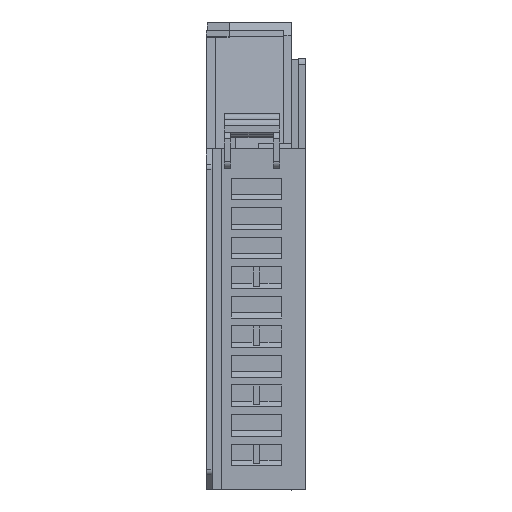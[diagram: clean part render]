
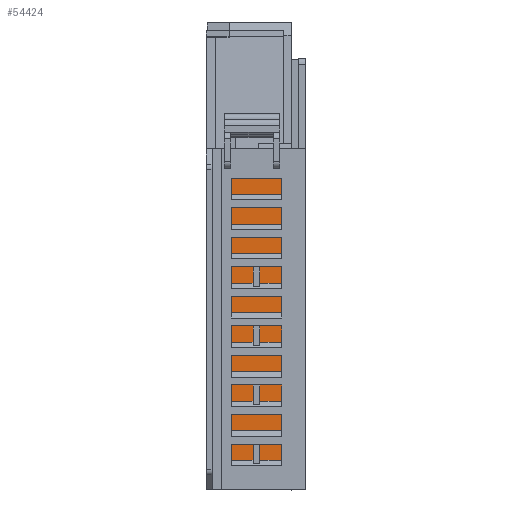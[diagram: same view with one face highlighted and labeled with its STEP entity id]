
A CAD part, front view. The second image highlights one B-rep face of the part: STEP entity #54424.
In plain terms, the highlighted planar face has unit normal (0, -1, 0).
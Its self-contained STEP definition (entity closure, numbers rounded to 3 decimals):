
#17053=DIRECTION('',(0.,0.,-1.));
#17054=VECTOR('',#17053,50.4);
#17055=CARTESIAN_POINT('',(76.25,-45.3,53.95));
#17056=LINE('',#17055,#17054);
#17057=DIRECTION('',(1.,0.,0.));
#17058=VECTOR('',#17057,8.);
#17059=CARTESIAN_POINT('',(68.25,-45.3,3.55));
#17060=LINE('',#17059,#17058);
#17061=DIRECTION('',(0.,0.,1.));
#17062=VECTOR('',#17061,50.4);
#17063=CARTESIAN_POINT('',(68.25,-45.3,3.55));
#17064=LINE('',#17063,#17062);
#17065=DIRECTION('',(-1.,0.,0.));
#17066=VECTOR('',#17065,8.);
#17067=CARTESIAN_POINT('',(76.25,-45.3,53.95));
#17068=LINE('',#17067,#17066);
#28039=CARTESIAN_POINT('',(76.25,-45.3,53.95));
#28040=CARTESIAN_POINT('',(76.25,-45.3,3.55));
#28041=VERTEX_POINT('',#28039);
#28042=VERTEX_POINT('',#28040);
#28043=CARTESIAN_POINT('',(68.25,-45.3,3.55));
#28044=CARTESIAN_POINT('',(68.25,-45.3,53.95));
#28045=VERTEX_POINT('',#28043);
#28046=VERTEX_POINT('',#28044);
#54412=CARTESIAN_POINT('',(70.35,-45.3,29.55));
#54413=DIRECTION('',(0.,1.,0.));
#54414=DIRECTION('',(0.,0.,-1.));
#54415=AXIS2_PLACEMENT_3D('',#54412,#54413,#54414);
#54416=PLANE('',#54415);
#54417=ORIENTED_EDGE('',*,*,#42102,.T.);
#54418=ORIENTED_EDGE('',*,*,#49851,.F.);
#54420=ORIENTED_EDGE('',*,*,#54419,.T.);
#54421=ORIENTED_EDGE('',*,*,#54403,.F.);
#54422=EDGE_LOOP('',(#54417,#54418,#54420,#54421));
#54423=FACE_OUTER_BOUND('',#54422,.F.);
#54424=ADVANCED_FACE('',(#54423),#54416,.F.);
#42102=EDGE_CURVE('',#28041,#28042,#17056,.T.);
#49851=EDGE_CURVE('',#28045,#28042,#17060,.T.);
#54403=EDGE_CURVE('',#28041,#28046,#17068,.T.);
#54419=EDGE_CURVE('',#28045,#28046,#17064,.T.);
